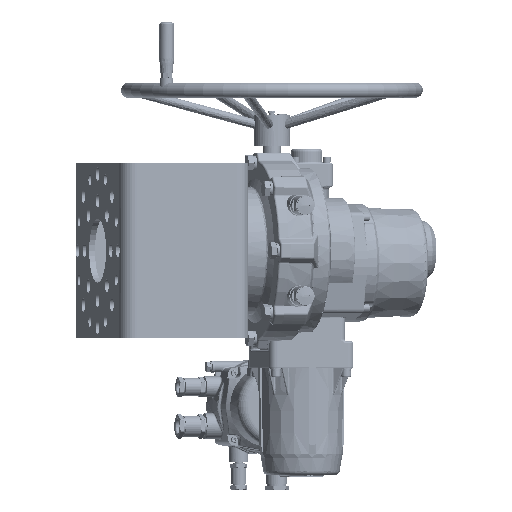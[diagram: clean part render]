
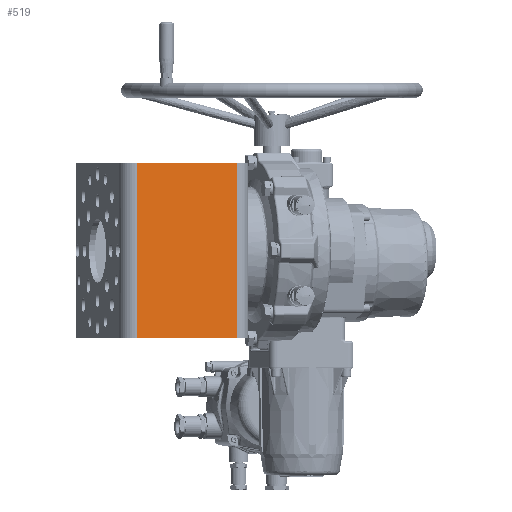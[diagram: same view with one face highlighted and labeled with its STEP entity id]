
A CAD part, front view. The second image highlights one B-rep face of the part: STEP entity #519.
In plain terms, the highlighted planar face has unit normal (0.264, -0.965, 0).
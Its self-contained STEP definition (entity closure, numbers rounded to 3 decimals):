
#519=ADVANCED_FACE('',(#4913),#4915,.T.);
#4913=FACE_BOUND('',#4914,.T.);
#4914=EDGE_LOOP('',(#103534,#103535,#103536,#103537));
#4915=PLANE('',#4916);
#4916=AXIS2_PLACEMENT_3D('',#4917,#4918,#4919);
#4917=CARTESIAN_POINT('',(-141.912,-298.993,-146.));
#4918=DIRECTION('',(0.264,-0.965,0.));
#4919=DIRECTION('',(0.965,0.264,0.));
#103534=ORIENTED_EDGE('',*,*,#243076,.T.);
#103535=ORIENTED_EDGE('',*,*,#243145,.T.);
#103536=ORIENTED_EDGE('',*,*,#243092,.F.);
#103537=ORIENTED_EDGE('',*,*,#243170,.F.);
#243076=EDGE_CURVE('',#296129,#296127,#296130,.T.);
#243092=EDGE_CURVE('',#296157,#296159,#296160,.T.);
#243145=EDGE_CURVE('',#296127,#296159,#296242,.T.);
#243170=EDGE_CURVE('',#296129,#296157,#296286,.T.);
#296127=VERTEX_POINT('',#324499);
#296129=VERTEX_POINT('',#324504);
#296130=LINE('',#324505,#324506);
#296157=VERTEX_POINT('',#324570);
#296159=VERTEX_POINT('',#324575);
#296160=LINE('',#324576,#324577);
#296242=LINE('',#325529,#325530);
#296286=LINE('',#326107,#326108);
#324499=CARTESIAN_POINT('',(24.01,-253.669,-146.));
#324504=CARTESIAN_POINT('',(-141.912,-298.993,-146.));
#324505=CARTESIAN_POINT('',(-141.912,-298.993,-146.));
#324506=VECTOR('',#324507,1.);
#324507=DIRECTION('',(0.965,0.264,0.));
#324570=CARTESIAN_POINT('',(-141.912,-298.993,144.));
#324575=CARTESIAN_POINT('',(24.01,-253.669,144.));
#324576=CARTESIAN_POINT('',(-141.912,-298.993,144.));
#324577=VECTOR('',#324578,1.);
#324578=DIRECTION('',(0.965,0.264,0.));
#325529=CARTESIAN_POINT('',(24.01,-253.669,-146.));
#325530=VECTOR('',#325531,1.);
#325531=DIRECTION('',(0.,0.,1.));
#326107=CARTESIAN_POINT('',(-141.912,-298.993,-146.));
#326108=VECTOR('',#326109,1.);
#326109=DIRECTION('',(0.,0.,1.));
